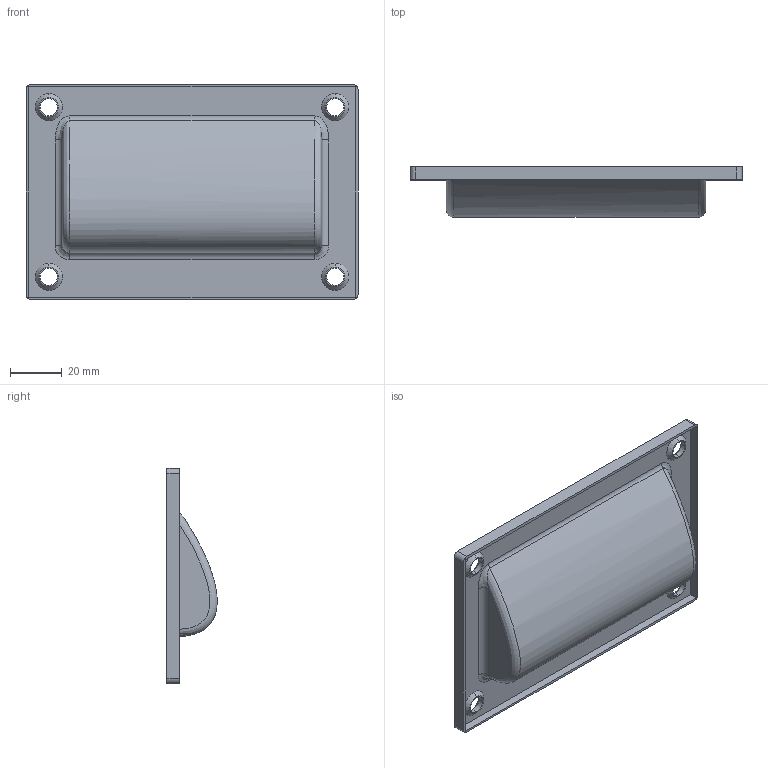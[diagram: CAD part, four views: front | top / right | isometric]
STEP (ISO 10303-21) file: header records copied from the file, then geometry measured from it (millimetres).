
FILE_DESCRIPTION (( 'STEP AP203' ), '1' );
FILE_NAME ('XG01-093.STEP', '2025-06-04T06:26:46', ( '微软用户' ), ( '微软中国' ), 'SwSTEP 2.0', 'SolidWorks 2024', '' );
FILE_SCHEMA (( 'CONFIG_CONTROL_DESIGN' ));
Length unit declared in the file: millimetre
Products named in the file (1): XG01-093
Bounding box: 128 x 19.44 x 83 mm (x, y, z)
Volume: 24378.7 mm3; surface area: 34939.8 mm2
Topology: 1 solids, 1 shells, 79 faces, 190 edges, 120 vertices
Faces by surface type: plane 29, cylinder 20, cone 16, bspline 14
Entity records: 3911 total; most frequent: CARTESIAN_POINT 2050, ORIENTED_EDGE 380, DIRECTION 342, EDGE_CURVE 190, AXIS2_PLACEMENT_3D 122, VERTEX_POINT 120, VECTOR 98, LINE 98
